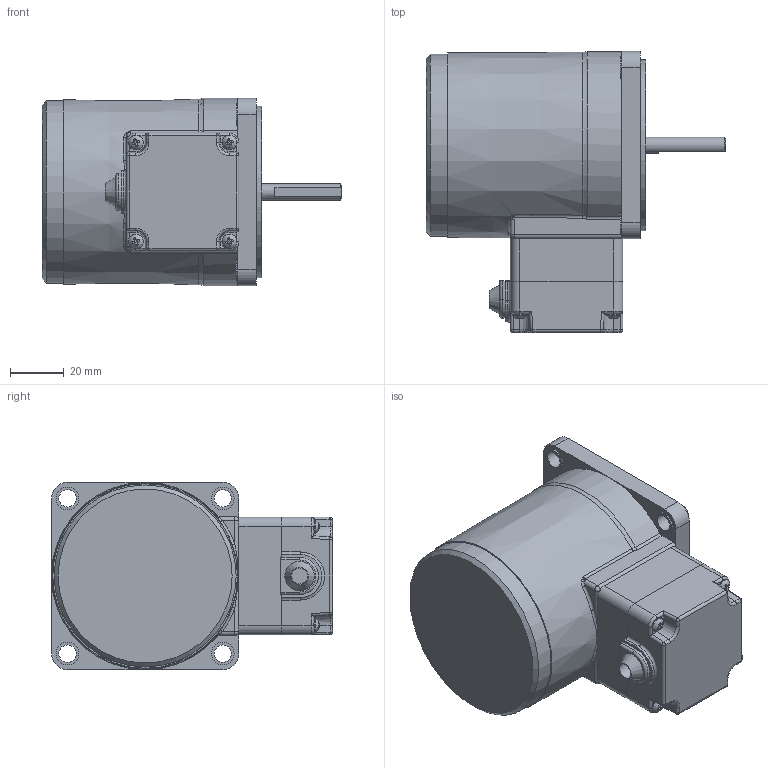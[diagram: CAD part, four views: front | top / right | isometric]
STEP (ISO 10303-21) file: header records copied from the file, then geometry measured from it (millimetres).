
FILE_DESCRIPTION(/* description */ (''),/* implementation_level */ '2;1');
FILE_NAME(/* name */ 'E:\도면작업\2016\0704) 미주향 SG 도면\3D MOTOR\TERMINAL BOX TYPE\INDUCTION TERMINAL BOX\SG7I15D_-T.stp',/* time_stamp */ '2017-01-23T17:11:34+09:00',/* author */ ('jy-jung'),/* organization */ (''),/* preprocessor_version */ 'ST-DEVELOPER v15.6',/* originating_system */ 'Autodesk Inventor 2015',/* authorisation */ '');
FILE_SCHEMA (('AUTOMOTIVE_DESIGN { 1 0 10303 214 3 1 1 }'));
Length unit declared in the file: millimetre
Products named in the file (1): 부품1
Bounding box: 112 x 105 x 70 mm (x, y, z)
Volume: 339877 mm3; surface area: 50553 mm2
Topology: 1 solids, 7 shells, 579 faces, 1493 edges, 923 vertices
Faces by surface type: plane 282, cylinder 202, torus 37, bspline 22, cone 18, sphere 18
Full cylindrical faces by diameter (mm): 2.5 x2, 3 x4, 3.5 x8, 5.6 x4, 6 x2, 6.5 x4, 8 x1, 8.5 x4, 28 x1, 64 x1, 68 x1
Entity records: 18427 total; most frequent: CARTESIAN_POINT 3972, DIRECTION 2935, ORIENTED_EDGE 2820, EDGE_CURVE 1410, AXIS2_PLACEMENT_3D 1065, VERTEX_POINT 913, LINE 805, VECTOR 805
